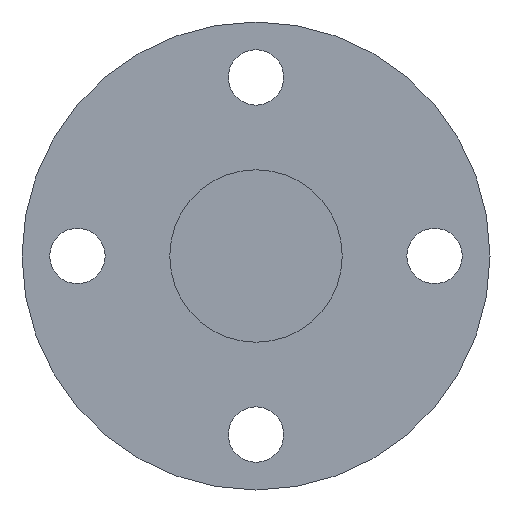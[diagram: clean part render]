
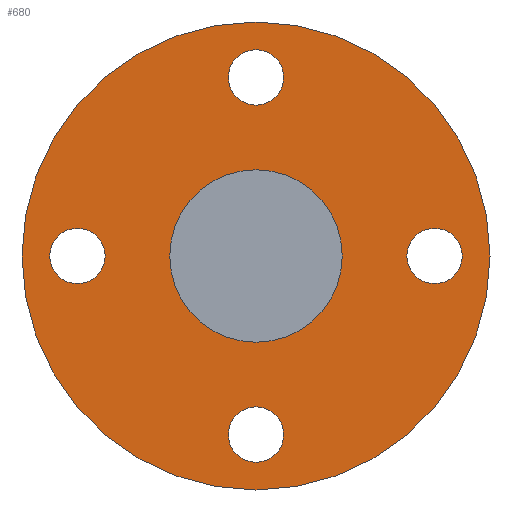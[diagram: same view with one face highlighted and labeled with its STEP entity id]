
A CAD part, left-side view. The second image highlights one B-rep face of the part: STEP entity #680.
In plain terms, the highlighted planar face has unit normal (-1, 0, 0).
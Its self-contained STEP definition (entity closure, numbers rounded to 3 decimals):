
#569=CARTESIAN_POINT('',(120.0,29.,-4.5));
#570=VERTEX_POINT('',#569);
#571=CARTESIAN_POINT('',(120.0,29.,0.));
#572=DIRECTION('',(1.0,0.0,0.0));
#573=DIRECTION('',(0.0,0.0,-1.0));
#574=AXIS2_PLACEMENT_3D('',#571,#572,#573);
#575=CIRCLE('',#574,4.5);
#576=EDGE_CURVE('',#570,#570,#575,.T.);
#589=CARTESIAN_POINT('',(120.0,-4.5,-29.));
#590=VERTEX_POINT('',#589);
#591=CARTESIAN_POINT('',(120.0,0.,-29.));
#592=DIRECTION('',(1.0,0.0,0.0));
#593=DIRECTION('',(0.0,-1.0,0.0));
#594=AXIS2_PLACEMENT_3D('',#591,#592,#593);
#595=CIRCLE('',#594,4.5);
#596=EDGE_CURVE('',#590,#590,#595,.T.);
#609=CARTESIAN_POINT('',(120.0,-29.,4.5));
#610=VERTEX_POINT('',#609);
#611=CARTESIAN_POINT('',(120.0,-29.,0.));
#612=DIRECTION('',(1.0,0.0,0.0));
#613=DIRECTION('',(0.0,0.0,1.0));
#614=AXIS2_PLACEMENT_3D('',#611,#612,#613);
#615=CIRCLE('',#614,4.5);
#616=EDGE_CURVE('',#610,#610,#615,.T.);
#629=CARTESIAN_POINT('',(120.0,4.5,29.));
#630=VERTEX_POINT('',#629);
#631=CARTESIAN_POINT('',(120.0,0.0,29.));
#632=DIRECTION('',(1.0,0.0,0.0));
#633=DIRECTION('',(0.0,1.0,0.0));
#634=AXIS2_PLACEMENT_3D('',#631,#632,#633);
#635=CIRCLE('',#634,4.5);
#636=EDGE_CURVE('',#630,#630,#635,.T.);
#641=CARTESIAN_POINT('',(120.0,0.0,26.));
#642=DIRECTION('',(-1.0,0.0,0.0));
#643=DIRECTION('',(0.0,0.0,1.0));
#644=AXIS2_PLACEMENT_3D('',#641,#642,#643);
#645=PLANE('',#644);
#646=CARTESIAN_POINT('',(120.0,0.0,38.));
#647=VERTEX_POINT('',#646);
#648=CARTESIAN_POINT('',(120.0,0.0,0.0));
#649=DIRECTION('',(-1.0,0.0,0.0));
#650=DIRECTION('',(0.0,0.0,1.0));
#651=AXIS2_PLACEMENT_3D('',#648,#649,#650);
#652=CIRCLE('',#651,38.);
#653=EDGE_CURVE('',#647,#647,#652,.T.);
#654=ORIENTED_EDGE('',*,*,#653,.T.);
#655=EDGE_LOOP('',(#654));
#656=FACE_OUTER_BOUND('',#655,.T.);
#657=ORIENTED_EDGE('',*,*,#576,.T.);
#658=EDGE_LOOP('',(#657));
#659=FACE_BOUND('',#658,.T.);
#660=ORIENTED_EDGE('',*,*,#596,.T.);
#661=EDGE_LOOP('',(#660));
#662=FACE_BOUND('',#661,.T.);
#663=ORIENTED_EDGE('',*,*,#616,.T.);
#664=EDGE_LOOP('',(#663));
#665=FACE_BOUND('',#664,.T.);
#666=ORIENTED_EDGE('',*,*,#636,.T.);
#667=EDGE_LOOP('',(#666));
#668=FACE_BOUND('',#667,.T.);
#669=CARTESIAN_POINT('',(120.0,0.0,14.));
#670=VERTEX_POINT('',#669);
#671=CARTESIAN_POINT('',(120.0,0.0,0.0));
#672=DIRECTION('',(-1.0,0.0,0.0));
#673=DIRECTION('',(0.0,0.0,1.0));
#674=AXIS2_PLACEMENT_3D('',#671,#672,#673);
#675=CIRCLE('',#674,14.);
#676=EDGE_CURVE('',#670,#670,#675,.T.);
#677=ORIENTED_EDGE('',*,*,#676,.F.);
#678=EDGE_LOOP('',(#677));
#679=FACE_BOUND('',#678,.T.);
#680=ADVANCED_FACE('',(#656,#659,#662,#665,#668,#679),#645,.T.);
